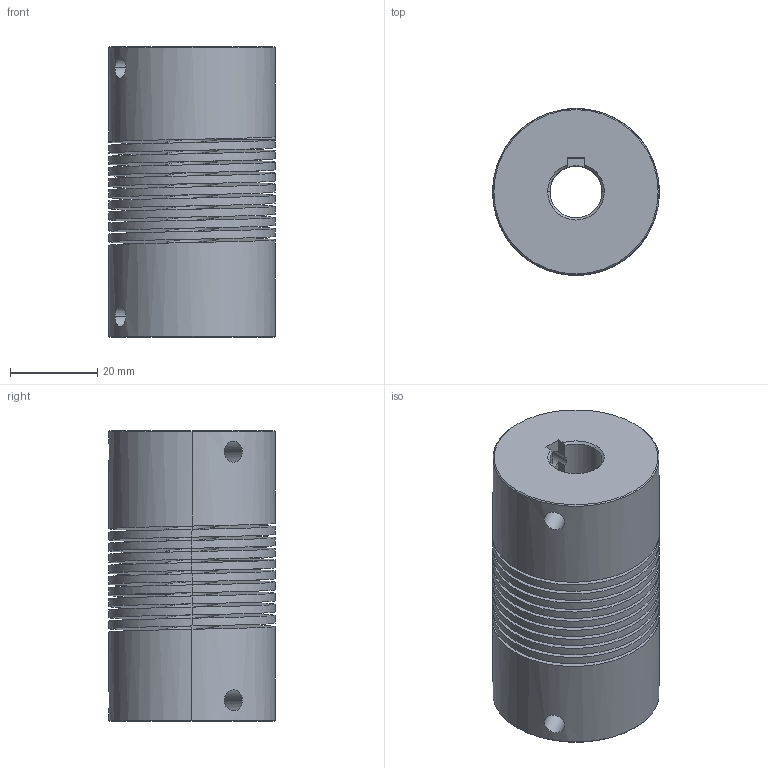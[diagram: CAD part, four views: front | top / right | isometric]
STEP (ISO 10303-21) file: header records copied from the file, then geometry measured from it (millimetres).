
FILE_DESCRIPTION((''),'2;1');
FILE_NAME('807-995','2023-03-02T',('jenni.wallner'),(''),'PRO/ENGINEER BY PARAMETRIC TECHNOLOGY CORPORATION, 2012420','PRO/ENGINEER BY PARAMETRIC TECHNOLOGY CORPORATION, 2012420','');
FILE_SCHEMA(('CONFIG_CONTROL_DESIGN'));
Length unit declared in the file: inch
Products named in the file (1): 807-995
Bounding box: 38.1 x 38.1 x 66.55 mm (x, y, z)
Volume: 59401 mm3; surface area: 32603.2 mm2
Topology: 1 solids, 1 shells, 87 faces, 252 edges, 163 vertices
Faces by surface type: cylinder 53, plane 18, cone 10, bspline 6
Entity records: 6122 total; most frequent: CARTESIAN_POINT 3990, ORIENTED_EDGE 504, DIRECTION 329, EDGE_CURVE 252, VERTEX_POINT 163, B_SPLINE_CURVE_WITH_KNOTS 113, VECTOR 111, LINE 111
